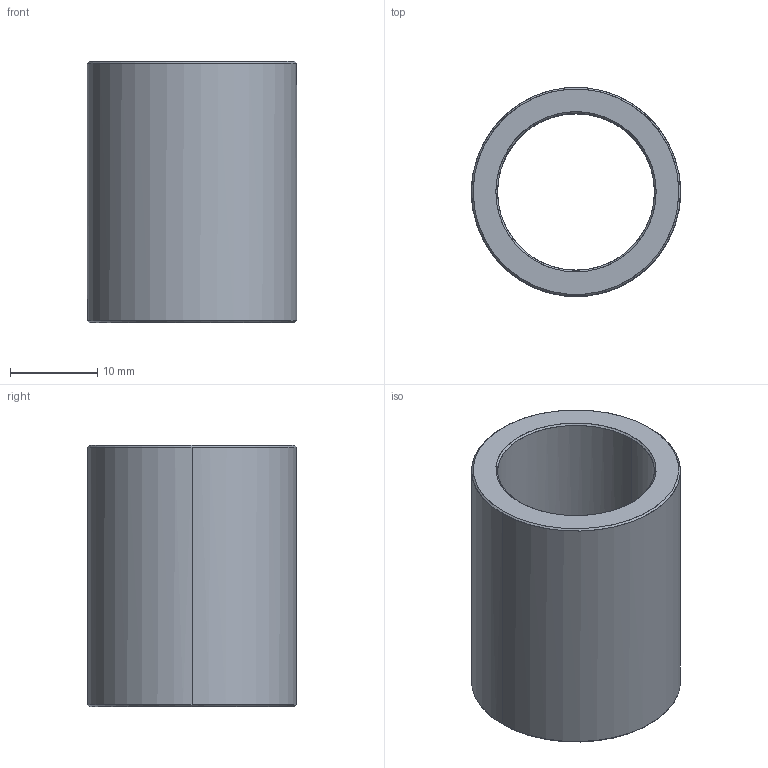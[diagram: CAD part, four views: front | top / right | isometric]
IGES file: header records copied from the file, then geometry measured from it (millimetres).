
Start section: Write IGES format                                    datakit 2008 (c)
Global section: file name: Unknown; native system: DATAKIT Converter; preprocessor: Unknown; author: Unknown; organization: Unknown; date: 950613.180003; units: millimetre
Bounding box: 24 x 23.92 x 30 mm (x, y, z)
Surface area: 4323.3 mm2 (no closed solid volume)
Topology: 0 solids, 0 shells, 14 faces, 56 edges, 56 vertices
Faces by surface type: revolution 12, bspline 2
